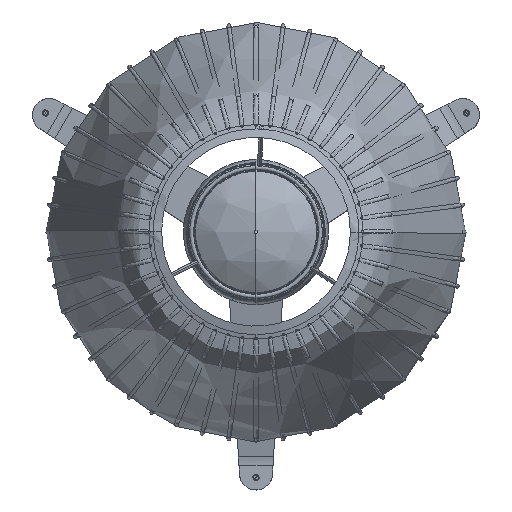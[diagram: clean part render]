
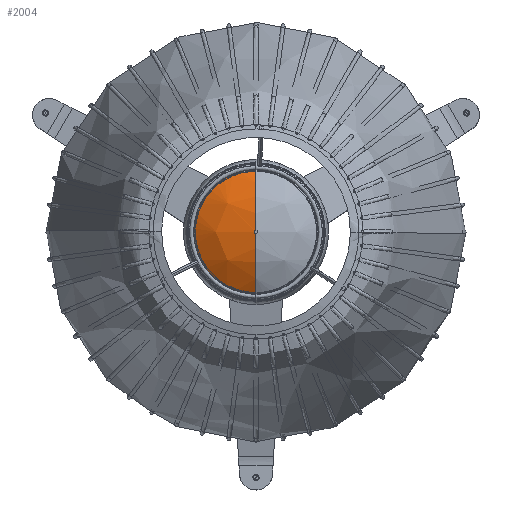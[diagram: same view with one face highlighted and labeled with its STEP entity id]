
A CAD part, top view. The second image highlights one B-rep face of the part: STEP entity #2004.
In plain terms, the highlighted free-form (B-spline) face has degree [2, 2] with [9, 9] control points.
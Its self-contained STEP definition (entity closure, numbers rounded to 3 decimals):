
#2004=ADVANCED_FACE('',(#4538),#40518,.T.);
#4538=FACE_OUTER_BOUND('',#7159,.T.);
#7159=EDGE_LOOP('',(#17069,#17070,#17071,#17072));
#17069=ORIENTED_EDGE('',*,*,#25947,.F.);
#17070=ORIENTED_EDGE('',*,*,#25950,.T.);
#17071=ORIENTED_EDGE('',*,*,#25951,.T.);
#17072=ORIENTED_EDGE('',*,*,#25952,.T.);
#25947=EDGE_CURVE('',#37711,#37712,#33474,.T.);
#25950=EDGE_CURVE('',#37711,#37713,#33477,.T.);
#25951=EDGE_CURVE('',#37713,#37714,#33478,.T.);
#25952=EDGE_CURVE('',#37714,#37712,#33479,.T.);
#33474=(
BOUNDED_CURVE()
B_SPLINE_CURVE(2,(#239740,#239741,#239742,#239743,#239744),
 .UNSPECIFIED.,.F.,.F.)
B_SPLINE_CURVE_WITH_KNOTS((3,2,3),(0.,116.48,232.959),
 .UNSPECIFIED.)
CURVE()
GEOMETRIC_REPRESENTATION_ITEM()
RATIONAL_B_SPLINE_CURVE((1.,0.707,1.,0.707,1.))
REPRESENTATION_ITEM('')
);
#33477=(
BOUNDED_CURVE()
B_SPLINE_CURVE(2,(#239751,#239752,#239753),.UNSPECIFIED.,.F.,.F.)
B_SPLINE_CURVE_WITH_KNOTS((3,3),(0.,76.904),.UNSPECIFIED.)
CURVE()
GEOMETRIC_REPRESENTATION_ITEM()
RATIONAL_B_SPLINE_CURVE((1.,0.953,1.))
REPRESENTATION_ITEM('')
);
#33478=(
BOUNDED_CURVE()
B_SPLINE_CURVE(2,(#239754,#239755,#239756,#239757,#239758),
 .UNSPECIFIED.,.F.,.F.)
B_SPLINE_CURVE_WITH_KNOTS((3,2,3),(0.,3.142,6.283),
 .UNSPECIFIED.)
CURVE()
GEOMETRIC_REPRESENTATION_ITEM()
RATIONAL_B_SPLINE_CURVE((1.,0.707,1.,0.707,1.))
REPRESENTATION_ITEM('')
);
#33479=(
BOUNDED_CURVE()
B_SPLINE_CURVE(2,(#239759,#239760,#239761),.UNSPECIFIED.,.F.,.F.)
B_SPLINE_CURVE_WITH_KNOTS((3,3),(0.,76.904),.UNSPECIFIED.)
CURVE()
GEOMETRIC_REPRESENTATION_ITEM()
RATIONAL_B_SPLINE_CURVE((1.,0.953,1.))
REPRESENTATION_ITEM('')
);
#37711=VERTEX_POINT('',#239153);
#37712=VERTEX_POINT('',#239154);
#37713=VERTEX_POINT('',#239155);
#37714=VERTEX_POINT('',#239156);
#40518=(
BOUNDED_SURFACE()
B_SPLINE_SURFACE(2,2,((#232467,#232468,#232469,#232470,#232471,#232472,
#232473,#232474,#232475),(#232476,#232477,#232478,#232479,#232480,#232481,
#232482,#232483,#232484),(#232485,#232486,#232487,#232488,#232489,#232490,
#232491,#232492,#232493),(#232494,#232495,#232496,#232497,#232498,#232499,
#232500,#232501,#232502),(#232503,#232504,#232505,#232506,#232507,#232508,
#232509,#232510,#232511),(#232512,#232513,#232514,#232515,#232516,#232517,
#232518,#232519,#232520),(#232521,#232522,#232523,#232524,#232525,#232526,
#232527,#232528,#232529),(#232530,#232531,#232532,#232533,#232534,#232535,
#232536,#232537,#232538),(#232539,#232540,#232541,#232542,#232543,#232544,
#232545,#232546,#232547)),.UNSPECIFIED.,.T.,.F.,.F.)
B_SPLINE_SURFACE_WITH_KNOTS((3,2,2,2,3),(3,2,2,2,3),(0.,199.7,
399.4,599.1,798.8),(0.,99.279,
198.559,297.838,397.117),.UNSPECIFIED.)
GEOMETRIC_REPRESENTATION_ITEM()
RATIONAL_B_SPLINE_SURFACE(((1.,0.922,1.,0.922,1.,
0.922,1.,0.922,1.),(0.707,0.652,
0.707,0.652,0.707,0.652,
0.707,0.652,0.707),(1.,0.922,
1.,0.922,1.,0.922,1.,0.922,1.),(0.707,
0.652,0.707,0.652,0.707,
0.652,0.707,0.652,0.707),
(1.,0.922,1.,0.922,1.,0.922,1.,0.922,
1.),(0.707,0.652,0.707,0.652,
0.707,0.652,0.707,0.652,
0.707),(1.,0.922,1.,0.922,1.,0.922,
1.,0.922,1.),(0.707,0.652,0.707,
0.652,0.707,0.652,0.707,
0.652,0.707),(1.,0.922,1.,0.922,
1.,0.922,1.,0.922,1.)))
REPRESENTATION_ITEM('')
SURFACE()
);
#232467=CARTESIAN_POINT('',(1000.,0.,1584.45));
#232468=CARTESIAN_POINT('',(1052.412,0.,1583.612));
#232469=CARTESIAN_POINT('',(1089.772,0.,1620.38));
#232470=CARTESIAN_POINT('',(1127.133,0.,1657.148));
#232471=CARTESIAN_POINT('',(1127.133,0.,1709.567));
#232472=CARTESIAN_POINT('',(1127.133,0.,1761.986));
#232473=CARTESIAN_POINT('',(1089.772,0.,1798.754));
#232474=CARTESIAN_POINT('',(1052.412,0.,1835.522));
#232475=CARTESIAN_POINT('',(1000.,0.,1834.684));
#232476=CARTESIAN_POINT('',(1000.,0.,1584.45));
#232477=CARTESIAN_POINT('',(1052.412,52.412,1583.612));
#232478=CARTESIAN_POINT('',(1089.772,89.772,1620.38));
#232479=CARTESIAN_POINT('',(1127.133,127.133,1657.148));
#232480=CARTESIAN_POINT('',(1127.133,127.133,1709.567));
#232481=CARTESIAN_POINT('',(1127.133,127.133,1761.986));
#232482=CARTESIAN_POINT('',(1089.772,89.772,1798.754));
#232483=CARTESIAN_POINT('',(1052.412,52.412,1835.522));
#232484=CARTESIAN_POINT('',(1000.,0.,1834.684));
#232485=CARTESIAN_POINT('',(1000.,0.,1584.45));
#232486=CARTESIAN_POINT('',(1000.,52.412,1583.612));
#232487=CARTESIAN_POINT('',(1000.,89.772,1620.38));
#232488=CARTESIAN_POINT('',(1000.,127.133,1657.148));
#232489=CARTESIAN_POINT('',(1000.,127.133,1709.567));
#232490=CARTESIAN_POINT('',(1000.,127.133,1761.986));
#232491=CARTESIAN_POINT('',(1000.,89.772,1798.754));
#232492=CARTESIAN_POINT('',(1000.,52.412,1835.522));
#232493=CARTESIAN_POINT('',(1000.,0.,1834.684));
#232494=CARTESIAN_POINT('',(1000.,0.,1584.45));
#232495=CARTESIAN_POINT('',(947.588,52.412,1583.612));
#232496=CARTESIAN_POINT('',(910.228,89.772,1620.38));
#232497=CARTESIAN_POINT('',(872.867,127.133,1657.148));
#232498=CARTESIAN_POINT('',(872.867,127.133,1709.567));
#232499=CARTESIAN_POINT('',(872.867,127.133,1761.986));
#232500=CARTESIAN_POINT('',(910.228,89.772,1798.754));
#232501=CARTESIAN_POINT('',(947.588,52.412,1835.522));
#232502=CARTESIAN_POINT('',(1000.,0.,1834.684));
#232503=CARTESIAN_POINT('',(1000.,0.,1584.45));
#232504=CARTESIAN_POINT('',(947.588,0.,1583.612));
#232505=CARTESIAN_POINT('',(910.228,0.,1620.38));
#232506=CARTESIAN_POINT('',(872.867,0.,1657.148));
#232507=CARTESIAN_POINT('',(872.867,0.,1709.567));
#232508=CARTESIAN_POINT('',(872.867,0.,1761.986));
#232509=CARTESIAN_POINT('',(910.228,0.,1798.754));
#232510=CARTESIAN_POINT('',(947.588,0.,1835.522));
#232511=CARTESIAN_POINT('',(1000.,0.,1834.684));
#232512=CARTESIAN_POINT('',(1000.,0.,1584.45));
#232513=CARTESIAN_POINT('',(947.588,-52.412,1583.612));
#232514=CARTESIAN_POINT('',(910.228,-89.772,1620.38));
#232515=CARTESIAN_POINT('',(872.867,-127.133,1657.148));
#232516=CARTESIAN_POINT('',(872.867,-127.133,1709.567));
#232517=CARTESIAN_POINT('',(872.867,-127.133,1761.986));
#232518=CARTESIAN_POINT('',(910.228,-89.772,1798.754));
#232519=CARTESIAN_POINT('',(947.588,-52.412,1835.522));
#232520=CARTESIAN_POINT('',(1000.,0.,1834.684));
#232521=CARTESIAN_POINT('',(1000.,0.,1584.45));
#232522=CARTESIAN_POINT('',(1000.,-52.412,1583.612));
#232523=CARTESIAN_POINT('',(1000.,-89.772,1620.38));
#232524=CARTESIAN_POINT('',(1000.,-127.133,1657.148));
#232525=CARTESIAN_POINT('',(1000.,-127.133,1709.567));
#232526=CARTESIAN_POINT('',(1000.,-127.133,1761.986));
#232527=CARTESIAN_POINT('',(1000.,-89.772,1798.754));
#232528=CARTESIAN_POINT('',(1000.,-52.412,1835.522));
#232529=CARTESIAN_POINT('',(1000.,0.,1834.684));
#232530=CARTESIAN_POINT('',(1000.,0.,1584.45));
#232531=CARTESIAN_POINT('',(1052.412,-52.412,1583.612));
#232532=CARTESIAN_POINT('',(1089.772,-89.772,1620.38));
#232533=CARTESIAN_POINT('',(1127.133,-127.133,1657.148));
#232534=CARTESIAN_POINT('',(1127.133,-127.133,1709.567));
#232535=CARTESIAN_POINT('',(1127.133,-127.133,1761.986));
#232536=CARTESIAN_POINT('',(1089.772,-89.772,1798.754));
#232537=CARTESIAN_POINT('',(1052.412,-52.412,1835.522));
#232538=CARTESIAN_POINT('',(1000.,0.,1834.684));
#232539=CARTESIAN_POINT('',(1000.,0.,1584.45));
#232540=CARTESIAN_POINT('',(1052.412,0.,1583.612));
#232541=CARTESIAN_POINT('',(1089.772,0.,1620.38));
#232542=CARTESIAN_POINT('',(1127.133,0.,1657.148));
#232543=CARTESIAN_POINT('',(1127.133,0.,1709.567));
#232544=CARTESIAN_POINT('',(1127.133,0.,1761.986));
#232545=CARTESIAN_POINT('',(1089.772,0.,1798.754));
#232546=CARTESIAN_POINT('',(1052.412,0.,1835.522));
#232547=CARTESIAN_POINT('',(1000.,0.,1834.684));
#239153=CARTESIAN_POINT('',(1000.,-74.153,1811.803));
#239154=CARTESIAN_POINT('',(1000.,74.153,1811.803));
#239155=CARTESIAN_POINT('',(1000.,-2.,1834.7));
#239156=CARTESIAN_POINT('',(1000.,2.,1834.7));
#239740=CARTESIAN_POINT('',(1000.,-74.153,1811.803));
#239741=CARTESIAN_POINT('',(925.847,-74.153,1811.803));
#239742=CARTESIAN_POINT('',(925.847,0.,1811.803));
#239743=CARTESIAN_POINT('',(925.847,74.153,1811.803));
#239744=CARTESIAN_POINT('',(1000.,74.153,1811.803));
#239751=CARTESIAN_POINT('',(1000.,-74.153,1811.803));
#239752=CARTESIAN_POINT('',(1000.,-41.71,1834.7));
#239753=CARTESIAN_POINT('',(1000.,-2.,1834.7));
#239754=CARTESIAN_POINT('',(1000.,-2.,1834.7));
#239755=CARTESIAN_POINT('',(998.,-2.,1834.7));
#239756=CARTESIAN_POINT('',(998.,0.,1834.7));
#239757=CARTESIAN_POINT('',(998.,2.,1834.7));
#239758=CARTESIAN_POINT('',(1000.,2.,1834.7));
#239759=CARTESIAN_POINT('',(1000.,2.,1834.7));
#239760=CARTESIAN_POINT('',(1000.,41.71,1834.7));
#239761=CARTESIAN_POINT('',(1000.,74.153,1811.803));
